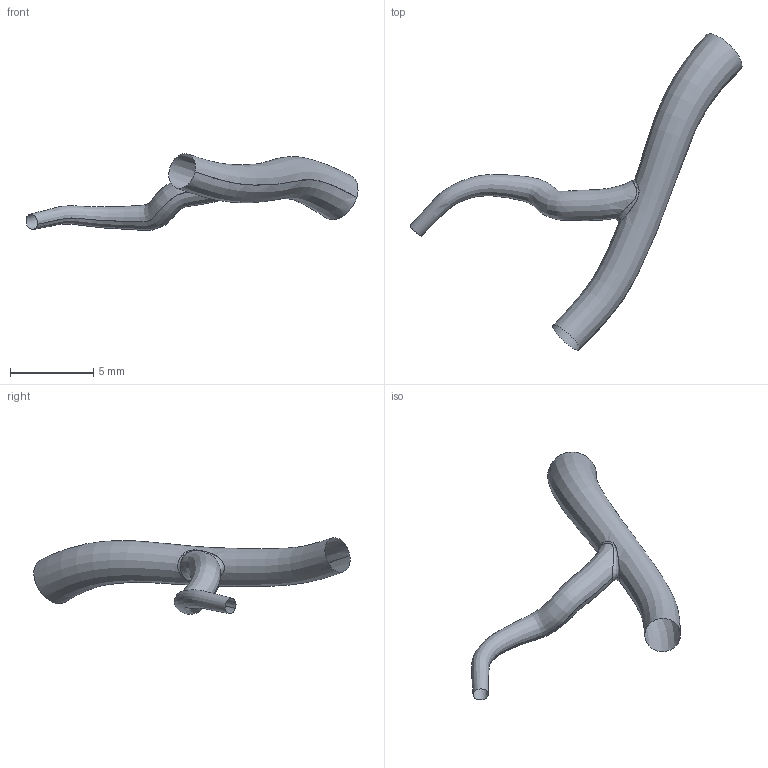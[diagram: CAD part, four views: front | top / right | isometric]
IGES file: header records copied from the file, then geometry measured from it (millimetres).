
Global section: file name: C:\Documents and Settings\Administrator\Desktop\FDA-Pig\Domestic RCA\Pig_000006\avc.ed.igs; native system: Rhinoceros ( May 19 2006 ); preprocessor: Trout Lake IGES 012 May 19 2006; date: 111205.185333; units: centimetre
Bounding box: 19.89 x 18.96 x 4.59 mm (x, y, z)
Surface area: 215.7 mm2 (no closed solid volume)
Topology: 0 solids, 0 shells, 3 faces, 54 edges, 51 vertices
Faces by surface type: bspline 3
